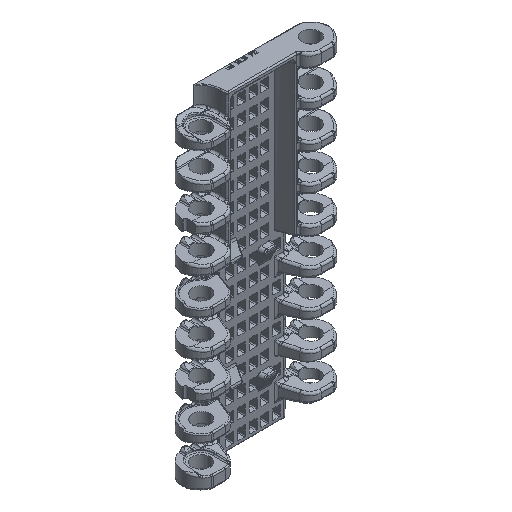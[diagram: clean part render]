
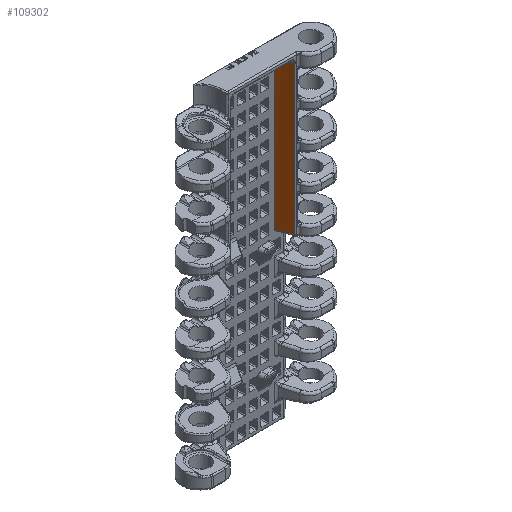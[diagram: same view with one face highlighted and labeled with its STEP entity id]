
A CAD part, isometric view. The second image highlights one B-rep face of the part: STEP entity #109302.
In plain terms, the highlighted cylindrical face has radius 50.016 mm (diameter 100.032 mm), a partial arc.
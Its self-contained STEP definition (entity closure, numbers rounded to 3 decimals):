
#1452=CARTESIAN_POINT('',(12.458,4.,71.35));
#1480=DIRECTION('',(0.,0.,1.));
#1481=VECTOR('',#1480,68.673);
#1482=CARTESIAN_POINT('',(12.458,4.,2.677));
#1483=LINE('',#1482,#1481);
#31024=CARTESIAN_POINT('',(14.82,-2.897,
2.772));
#31052=DIRECTION('',(0.,0.,-1.));
#31053=VECTOR('',#31052,68.578);
#31054=CARTESIAN_POINT('',(14.82,-2.897,71.35));
#31055=LINE('',#31054,#31053);
#31059=CARTESIAN_POINT('',(14.82,-2.897,
2.772));
#31060=CARTESIAN_POINT('',(14.703,-2.452,
2.767));
#31061=CARTESIAN_POINT('',(14.457,-1.564,
2.757));
#31062=CARTESIAN_POINT('',(14.054,-0.254,
2.741));
#31063=CARTESIAN_POINT('',(13.605,1.076,2.723));
#31064=CARTESIAN_POINT('',(13.072,2.514,2.702));
#31065=CARTESIAN_POINT('',(12.672,3.499,2.686));
#31066=CARTESIAN_POINT('',(12.458,4.,2.677));
#31071=CARTESIAN_POINT('',(-33.553,-15.61,71.35));
#31072=DIRECTION('',(0.,0.,1.));
#31073=DIRECTION('',(0.967,0.254,0.));
#31074=AXIS2_PLACEMENT_3D('',#31071,#31072,#31073);
#74924=VERTEX_POINT('',#1452);
#75073=CARTESIAN_POINT('',(14.82,-2.897,71.35));
#75074=VERTEX_POINT('',#75073);
#75192=CARTESIAN_POINT('',(12.458,4.,2.677));
#75193=VERTEX_POINT('',#75192);
#76436=VERTEX_POINT('',#31024);
#109290=CARTESIAN_POINT('',(-33.553,-15.61,75.5));
#109291=DIRECTION('',(0.,0.,1.));
#109292=DIRECTION('',(-1.,0.,0.));
#109293=AXIS2_PLACEMENT_3D('',#109290,#109291,#109292);
#109294=CYLINDRICAL_SURFACE('',#109293,50.016);
#109295=ORIENTED_EDGE('',*,*,#109204,.T.);
#109296=ORIENTED_EDGE('',*,*,#78956,.T.);
#109297=ORIENTED_EDGE('',*,*,#79034,.T.);
#109299=ORIENTED_EDGE('',*,*,#109298,.F.);
#109300=EDGE_LOOP('',(#109295,#109296,#109297,#109299));
#109301=FACE_OUTER_BOUND('',#109300,.F.);
#31067=B_SPLINE_CURVE_WITH_KNOTS('',3,(#31059,#31060,#31061,#31062,#31063,
#31064,#31065,#31066),.UNSPECIFIED.,.F.,.F.,(4,1,1,1,1,4),(0.,0.2,0.4,
0.6,0.8,1.),.UNSPECIFIED.);
#31075=CIRCLE('',#31074,50.016);
#78956=EDGE_CURVE('',#76436,#75193,#31067,.T.);
#79034=EDGE_CURVE('',#75193,#74924,#1483,.T.);
#109204=EDGE_CURVE('',#75074,#76436,#31055,.T.);
#109298=EDGE_CURVE('',#75074,#74924,#31075,.T.);
#109302=ADVANCED_FACE('',(#109301),#109294,.F.);
